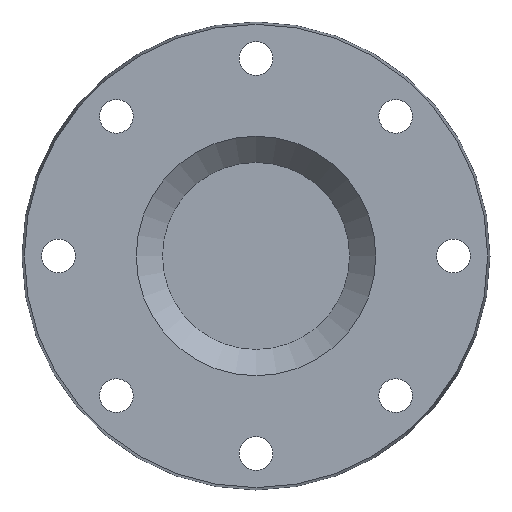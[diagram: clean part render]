
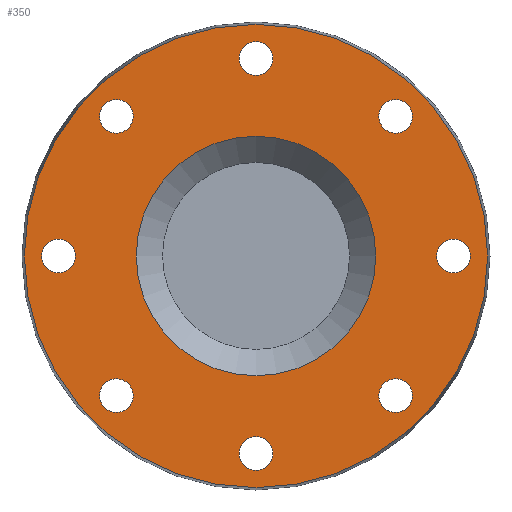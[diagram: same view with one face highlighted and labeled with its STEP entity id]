
A CAD part, left-side view. The second image highlights one B-rep face of the part: STEP entity #350.
In plain terms, the highlighted planar face has unit normal (-1, 0, 0).
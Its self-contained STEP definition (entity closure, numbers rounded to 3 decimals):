
#24=PLANE('',#407);
#55=FACE_BOUND('',#142,.T.);
#56=FACE_BOUND('',#143,.T.);
#57=FACE_BOUND('',#144,.T.);
#58=FACE_BOUND('',#145,.T.);
#59=FACE_BOUND('',#146,.T.);
#60=FACE_BOUND('',#147,.T.);
#61=FACE_BOUND('',#148,.T.);
#62=FACE_BOUND('',#149,.T.);
#63=FACE_BOUND('',#150,.T.);
#87=FACE_OUTER_BOUND('',#141,.T.);
#141=EDGE_LOOP('',(#301));
#142=EDGE_LOOP('',(#302));
#143=EDGE_LOOP('',(#303));
#144=EDGE_LOOP('',(#304));
#145=EDGE_LOOP('',(#305));
#146=EDGE_LOOP('',(#306));
#147=EDGE_LOOP('',(#307));
#148=EDGE_LOOP('',(#308));
#149=EDGE_LOOP('',(#309));
#150=EDGE_LOOP('',(#310));
#175=CIRCLE('',#389,9.);
#176=CIRCLE('',#391,9.);
#177=CIRCLE('',#393,9.);
#178=CIRCLE('',#395,9.);
#179=CIRCLE('',#397,9.);
#180=CIRCLE('',#399,9.);
#181=CIRCLE('',#401,9.);
#182=CIRCLE('',#403,9.);
#183=CIRCLE('',#406,123.75);
#184=CIRCLE('',#408,64.);
#207=VERTEX_POINT('',#584);
#208=VERTEX_POINT('',#587);
#209=VERTEX_POINT('',#590);
#210=VERTEX_POINT('',#593);
#211=VERTEX_POINT('',#596);
#212=VERTEX_POINT('',#599);
#213=VERTEX_POINT('',#602);
#214=VERTEX_POINT('',#605);
#215=VERTEX_POINT('',#609);
#216=VERTEX_POINT('',#612);
#239=EDGE_CURVE('',#207,#207,#175,.T.);
#240=EDGE_CURVE('',#208,#208,#176,.T.);
#241=EDGE_CURVE('',#209,#209,#177,.T.);
#242=EDGE_CURVE('',#210,#210,#178,.T.);
#243=EDGE_CURVE('',#211,#211,#179,.T.);
#244=EDGE_CURVE('',#212,#212,#180,.T.);
#245=EDGE_CURVE('',#213,#213,#181,.T.);
#246=EDGE_CURVE('',#214,#214,#182,.T.);
#247=EDGE_CURVE('',#215,#215,#183,.T.);
#248=EDGE_CURVE('',#216,#216,#184,.T.);
#301=ORIENTED_EDGE('',*,*,#247,.T.);
#302=ORIENTED_EDGE('',*,*,#239,.T.);
#303=ORIENTED_EDGE('',*,*,#240,.T.);
#304=ORIENTED_EDGE('',*,*,#241,.T.);
#305=ORIENTED_EDGE('',*,*,#242,.T.);
#306=ORIENTED_EDGE('',*,*,#243,.T.);
#307=ORIENTED_EDGE('',*,*,#244,.T.);
#308=ORIENTED_EDGE('',*,*,#245,.T.);
#309=ORIENTED_EDGE('',*,*,#246,.T.);
#310=ORIENTED_EDGE('',*,*,#248,.F.);
#350=ADVANCED_FACE('',(#87,#55,#56,#57,#58,#59,#60,#61,#62,#63),#24,.T.);
#389=AXIS2_PLACEMENT_3D('',#585,#482,#483);
#391=AXIS2_PLACEMENT_3D('',#588,#486,#487);
#393=AXIS2_PLACEMENT_3D('',#591,#490,#491);
#395=AXIS2_PLACEMENT_3D('',#594,#494,#495);
#397=AXIS2_PLACEMENT_3D('',#597,#498,#499);
#399=AXIS2_PLACEMENT_3D('',#600,#502,#503);
#401=AXIS2_PLACEMENT_3D('',#603,#506,#507);
#403=AXIS2_PLACEMENT_3D('',#606,#510,#511);
#406=AXIS2_PLACEMENT_3D('',#610,#516,#517);
#407=AXIS2_PLACEMENT_3D('',#611,#518,#519);
#408=AXIS2_PLACEMENT_3D('',#613,#520,#521);
#482=DIRECTION('center_axis',(1.,0.,0.));
#483=DIRECTION('ref_axis',(0.,-0.707,0.707));
#486=DIRECTION('center_axis',(1.,0.,0.));
#487=DIRECTION('ref_axis',(0.,-1.,0.));
#490=DIRECTION('center_axis',(1.,0.,0.));
#491=DIRECTION('ref_axis',(0.,-0.707,-0.707));
#494=DIRECTION('center_axis',(1.,0.,0.));
#495=DIRECTION('ref_axis',(0.,0.,-1.));
#498=DIRECTION('center_axis',(1.,0.,0.));
#499=DIRECTION('ref_axis',(0.,0.707,-0.707));
#502=DIRECTION('center_axis',(1.,0.,0.));
#503=DIRECTION('ref_axis',(0.,1.,0.));
#506=DIRECTION('center_axis',(1.,0.,0.));
#507=DIRECTION('ref_axis',(0.,0.707,0.707));
#510=DIRECTION('center_axis',(1.,0.,0.));
#511=DIRECTION('ref_axis',(0.,0.,1.));
#516=DIRECTION('center_axis',(-1.,0.,0.));
#517=DIRECTION('ref_axis',(0.,0.,1.));
#518=DIRECTION('center_axis',(-1.,0.,0.));
#519=DIRECTION('ref_axis',(0.,0.,1.));
#520=DIRECTION('center_axis',(-1.,0.,0.));
#521=DIRECTION('ref_axis',(0.,0.,1.));
#584=CARTESIAN_POINT('',(-14.,80.964,68.236));
#585=CARTESIAN_POINT('Origin',(-14.,74.6,74.6));
#587=CARTESIAN_POINT('',(-14.,9.,105.5));
#588=CARTESIAN_POINT('Origin',(-14.,0.,105.5));
#590=CARTESIAN_POINT('',(-14.,-68.236,80.964));
#591=CARTESIAN_POINT('Origin',(-14.,-74.6,74.6));
#593=CARTESIAN_POINT('',(-14.,-105.5,9.));
#594=CARTESIAN_POINT('Origin',(-14.,-105.5,0.));
#596=CARTESIAN_POINT('',(-14.,-80.964,-68.236));
#597=CARTESIAN_POINT('Origin',(-14.,-74.6,-74.6));
#599=CARTESIAN_POINT('',(-14.,-9.,-105.5));
#600=CARTESIAN_POINT('Origin',(-14.,0.,-105.5));
#602=CARTESIAN_POINT('',(-14.,68.236,-80.964));
#603=CARTESIAN_POINT('Origin',(-14.,74.6,-74.6));
#605=CARTESIAN_POINT('',(-14.,105.5,-9.));
#606=CARTESIAN_POINT('Origin',(-14.,105.5,0.));
#609=CARTESIAN_POINT('',(-14.,-123.75,0.));
#610=CARTESIAN_POINT('Origin',(-14.,0.,0.));
#611=CARTESIAN_POINT('Origin',(-14.,-64.,0.));
#612=CARTESIAN_POINT('',(-14.,-64.,0.));
#613=CARTESIAN_POINT('Origin',(-14.,0.,0.));
